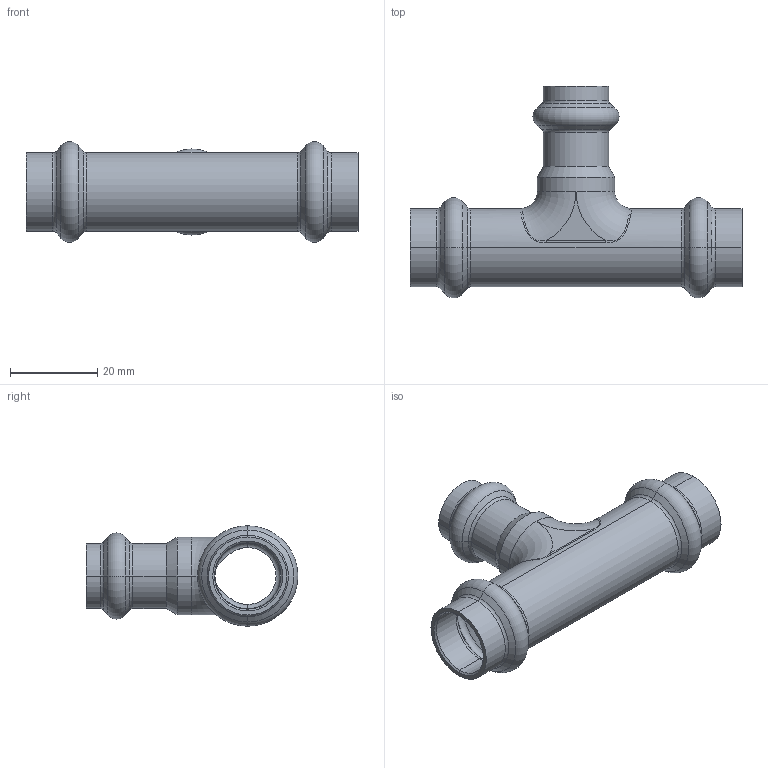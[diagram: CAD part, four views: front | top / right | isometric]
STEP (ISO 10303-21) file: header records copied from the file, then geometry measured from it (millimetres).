
FILE_DESCRIPTION (( 'STEP AP203' ), '1' );
FILE_NAME ('SP5130 Ø15-12-15.STEP', '2017-04-24T13:26:01', ( '' ), ( '' ), 'SwSTEP 2.0', 'SolidWorks 2016', '' );
FILE_SCHEMA (( 'CONFIG_CONTROL_DESIGN' ));
Length unit declared in the file: millimetre
Products named in the file (1): SP5130 Ø15-12-15
Bounding box: 76 x 48.5 x 23 mm (x, y, z)
Volume: 9143.3 mm3; surface area: 11377.7 mm2
Topology: 1 solids, 1 shells, 130 faces, 274 edges, 144 vertices
Faces by surface type: torus 46, cone 36, cylinder 35, plane 7, bspline 6
Entity records: 4819 total; most frequent: CARTESIAN_POINT 1941, DIRECTION 674, ORIENTED_EDGE 540, AXIS2_PLACEMENT_3D 301, EDGE_CURVE 270, CIRCLE 176, VERTEX_POINT 144, EDGE_LOOP 136
